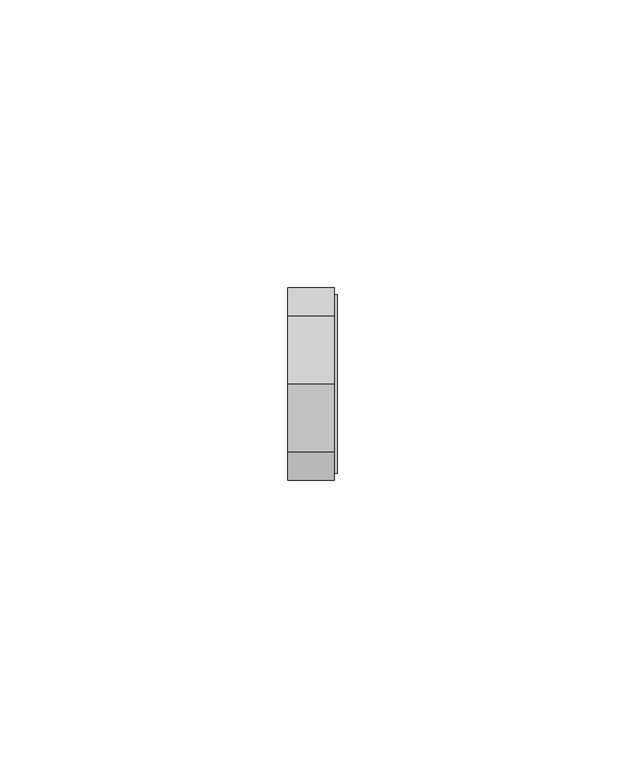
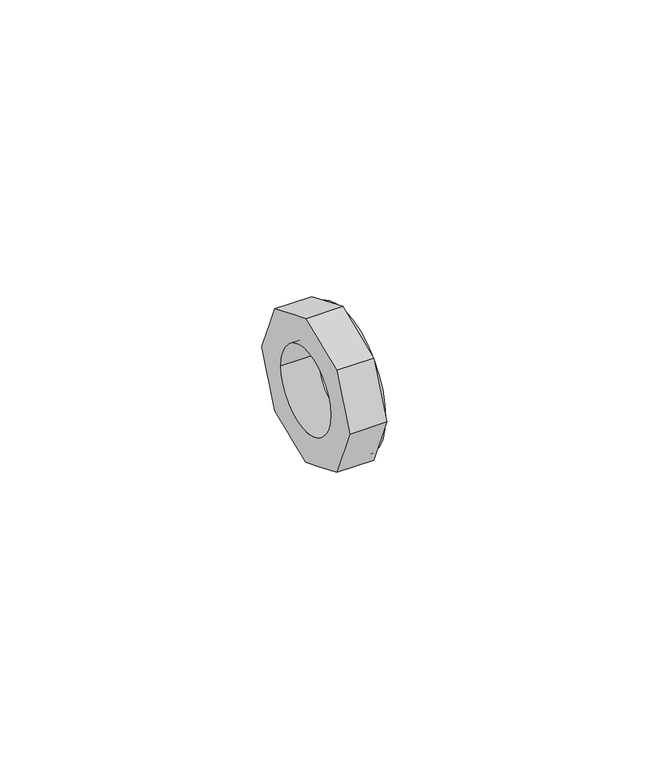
"""IFC4 building model written with IfcOpenShell, lengths in millimetres: pipe fitting geometry, REHAU_RAUTITAN_Adaptor_RX+, with internal thread : REHAU_RAUTITAN_Adaptor_RX+, with internal thread."""

from ifc_helpers import new_model, si_unit, point, frame, origin, origin_2d, place, context, project, spatial, polyline, circle_curve, trimmed, segment, composite_curve, outline, extrude, source, transform, mapped, element, save
from ifc_brep_helpers import plane_surface, revolved_surface, advanced_brep


def pipe_fitting_c2736b13(model_context):
    return source(origin(), model_context, "Body", "SolidModel", [
        advanced_brep(
        [(4.055, -11.8631864, 11.8631864), (4.055, -16.7770791, 0.0), (4.055, -11.8631864, -11.8631864), (4.055, 0.0, -16.7770791), (4.055, 11.8631864, -11.8631864), (4.055, 16.7770791, 0.0), (4.055, 11.8631864, 11.8631864), (4.055, 0.0, 16.7770791), (4.055, -9.5, 0.0), (4.055, 9.5, 0.0), (-4.055, -11.8631864, 11.8631864), (-4.055, -6.3022135, 14.1666168), (-4.055, -5.5609729, 14.4736487), (-4.055, 0.0, 16.7770791), (-4.055, 5.5609729, 14.4736487), (-4.055, 6.3022135, 14.1666168), (-4.055, 11.8631864, 11.8631864), (-4.055, 14.1666168, 6.3022135), (-4.055, 14.4736487, 5.5609729), (-4.055, 16.7770791, 0.0), (-4.055, 14.4736487, -5.5609729), (-4.055, 14.1666168, -6.3022135), (-4.055, 11.8631864, -11.8631864), (-4.055, 6.3022135, -14.1666168), (-4.055, 5.5609729, -14.4736487), (-4.055, 0.0, -16.7770791), (-4.055, -5.5609729, -14.4736487), (-4.055, -6.3022135, -14.1666168), (-4.055, -11.8631864, -11.8631864), (-4.055, -14.1666168, -6.3022135), (-4.055, -14.4736487, -5.5609729), (-4.055, -16.7770791, 0.0), (-4.055, -14.4736487, 5.5609729), (-4.055, -14.1666168, 6.3022135), (-4.055, -9.5, 0.0), (-4.055, 9.5, 0.0)],
        [
            (0, 1),
            (1, 2),
            (2, 3),
            (3, 4),
            (4, 5),
            (5, 6),
            (6, 7),
            (7, 0),
            (8, 9, circle_curve(frame((4.055, 0.0, 0.0), z_axis=(-1.0, 0.0, 0.0), x_axis=(0.0, 1.0, 0.0)), 9.5)),
            (9, 8, circle_curve(frame((4.055, 0.0, 0.0), z_axis=(-1.0, 0.0, 0.0), x_axis=(0.0, 1.0, 0.0)), 9.5)),
            (10, 11),
            (11, 12),
            (12, 13),
            (13, 14),
            (14, 15),
            (15, 16),
            (16, 17),
            (17, 18),
            (18, 19),
            (19, 20),
            (20, 21),
            (21, 22),
            (22, 23),
            (23, 24),
            (24, 25),
            (25, 26),
            (26, 27),
            (27, 28),
            (28, 29),
            (29, 30),
            (30, 31),
            (31, 32),
            (32, 33),
            (33, 10),
            (34, 35, circle_curve(frame((-4.055, 0.0, 0.0), z_axis=(1.0, 0.0, 0.0), x_axis=(0.0, 1.0, 0.0)), 9.5)),
            (35, 34, circle_curve(frame((-4.055, 0.0, 0.0), z_axis=(1.0, 0.0, 0.0), x_axis=(0.0, 1.0, 0.0)), 9.5)),
            (8, 34),
            (35, 9),
            (0, 10),
            (31, 1),
            (28, 2),
            (25, 3),
            (22, 4),
            (19, 5),
            (16, 6),
            (13, 7),
        ],
        [
            plane_surface(frame((4.055, 9.5, 0.0), z_axis=(1.0, 0.0, 0.0), x_axis=(0.0, 0.0, -1.0))),
            plane_surface(frame((-4.055, 9.5, 0.0), z_axis=(-1.0, 0.0, 0.0), x_axis=(0.0, 0.0, 1.0))),
            revolved_surface(polyline([(-4.055, 9.5, 0.0), (4.055, 9.5, 0.0)]), (-4.055, 0.0, 0.0), (-1.0, 0.0, 0.0)),
            plane_surface(frame((4.055, -11.8631864, 11.8631864), z_axis=(0.0, -0.9238795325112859, 0.382683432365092), x_axis=(-1.0, 0.0, 0.0))),
            plane_surface(frame((4.055, -16.7770791, 0.0), z_axis=(0.0, -0.9238795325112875, -0.38268343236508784), x_axis=(-1.0, 0.0, 0.0))),
            plane_surface(frame((4.055, -11.8631864, -11.8631864), z_axis=(0.0, -0.38268343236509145, -0.9238795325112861), x_axis=(-1.0, 0.0, 0.0))),
            plane_surface(frame((4.055, 0.0, -16.7770791), z_axis=(0.0, 0.38268343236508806, -0.9238795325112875), x_axis=(-1.0, 0.0, 0.0))),
            plane_surface(frame((4.055, 11.8631864, -11.8631864), z_axis=(0.0, 0.9238795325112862, -0.3826834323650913), x_axis=(-1.0, 0.0, 0.0))),
            plane_surface(frame((4.055, 16.7770791, 0.0), z_axis=(0.0, 0.9238795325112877, 0.38268343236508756), x_axis=(-1.0, 0.0, 0.0))),
            plane_surface(frame((4.055, 11.8631864, 11.8631864), z_axis=(0.0, 0.38268343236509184, 0.923879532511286), x_axis=(-1.0, 0.0, 0.0))),
            plane_surface(frame((4.055, 0.0, 16.7770791), z_axis=(0.0, -0.3826834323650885, 0.9238795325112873), x_axis=(-1.0, 0.0, 0.0))),
        ],
        [
            (0, [[1, 2, 3, 4, 5, 6, 7, 8], [9, 10]]),
            (1, [[11, 12, 13, 14, 15, 16, 17, 18, 19, 20, 21, 22, 23, 24, 25, 26, 27, 28, 29, 30, 31, 32, 33, 34], [35, 36]]),
            (2, [[-9, 37, -36, 38]]),
            (2, [[-10, -38, -35, -37]]),
            (3, [[-1, 39, -34, -33, -32, 40]]),
            (4, [[-2, -40, -31, -30, -29, 41]]),
            (5, [[-3, -41, -28, -27, -26, 42]]),
            (6, [[-4, -42, -25, -24, -23, 43]]),
            (7, [[-5, -43, -22, -21, -20, 44]]),
            (8, [[-6, -44, -19, -18, -17, 45]]),
            (9, [[-7, -45, -16, -15, -14, 46]]),
            (10, [[-8, -46, -13, -12, -11, -39]]),
        ],
    ),
        extrude(outline(composite_curve([segment(trimmed(circle_curve(origin_2d(), 15.5), [point((-15.5, 0.0))], [point((15.5, 0.0))], False, "CARTESIAN"), True, "CONTINUOUS"), segment(trimmed(circle_curve(origin_2d(), 15.5), [point((15.5, 0.0))], [point((-15.5, 0.0))], False, "CARTESIAN"), True, "CONTINUOUS")], self_intersect=False), holes=[composite_curve([segment(trimmed(circle_curve(origin_2d(), 13.075), [point((-13.075, 0.0))], [point((13.075, 0.0))], True, "CARTESIAN"), True, "CONTINUOUS"), segment(trimmed(circle_curve(origin_2d(), 13.075), [point((13.075, 0.0))], [point((-13.075, 0.0))], True, "CARTESIAN"), True, "CONTINUOUS")], self_intersect=False)]), frame((4.055, 0.0, 0.0), z_axis=(1.0, 0.0, 0.0), x_axis=(0.0, 1.0, 0.0)), (0.0, 0.0, 1.0), 0.575),
    ])


if __name__ == "__main__":
    model = new_model("IFC4")
    model_context = context("Model", 3, world=origin())
    ifc_project = project(units=[si_unit("LENGTHUNIT", "METRE", prefix="MILLI")], contexts=[model_context])
    site = spatial("IfcSite", under=ifc_project)
    building = spatial("IfcBuilding", under=site)
    placement = place(None, origin())
    pipe_fitting_shape = pipe_fitting_c2736b13(model_context)
    element("IfcPipeFitting", 1, ObjectType="REHAU_RAUTITAN_Adaptor_RX+, with internal thread : REHAU_RAUTITAN_Adaptor_RX+, with internal thread", at=placement, inside=building, context=model_context, shape_type="MappedRepresentation", body=[
        mapped(pipe_fitting_shape, transform((0.0, 0.0, 0.0), x_axis=(1.0, 0.0, 0.0), y_axis=(0.0, 1.0, 0.0), z_axis=(0.0, 0.0, 1.0))),
    ])
    save(model, "model.ifc")
